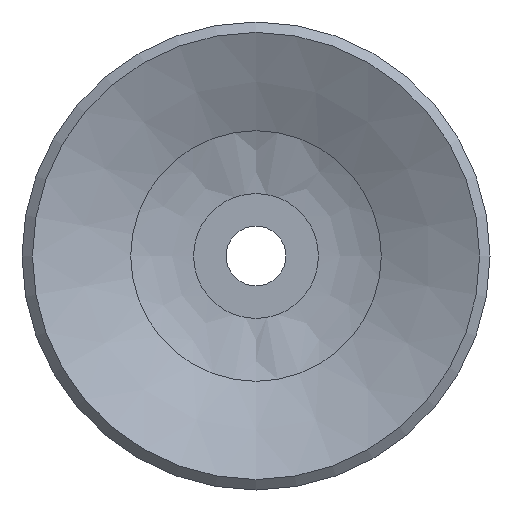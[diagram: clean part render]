
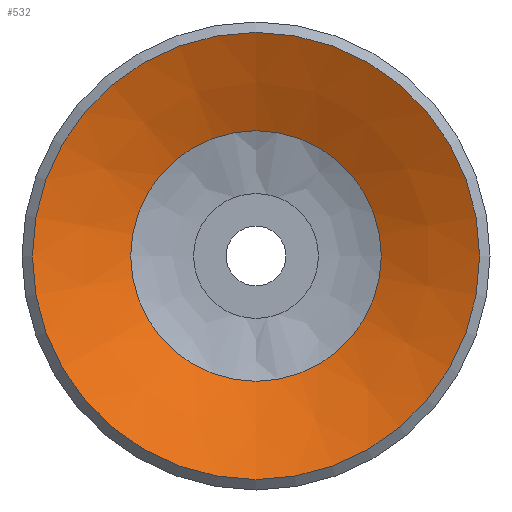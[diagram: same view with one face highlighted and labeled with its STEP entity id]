
A CAD part, front view. The second image highlights one B-rep face of the part: STEP entity #532.
In plain terms, the highlighted conical face has half-angle 65.056 degrees and reference radius 3.2 mm.
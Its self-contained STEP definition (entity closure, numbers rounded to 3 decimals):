
#532=ADVANCED_FACE('',(#756,#757),#758,.F.);
#756=FACE_BOUND('',#1035,.T.);
#757=FACE_OUTER_BOUND('',#1036,.T.);
#758=CONICAL_SURFACE('',#1037,3.2,1.135);
#1035=EDGE_LOOP('',(#1651));
#1036=EDGE_LOOP('',(#1652));
#1037=AXIS2_PLACEMENT_3D('',#1653,#1654,#1655);
#1651=ORIENTED_EDGE('',*,*,#1961,.T.);
#1652=ORIENTED_EDGE('',*,*,#1962,.T.);
#1653=CARTESIAN_POINT('',(0.0,7.896,0.0));
#1654=DIRECTION('',(-0.0,-1.0,0.));
#1655=DIRECTION('',(0.0,0.,-1.0));
#1961=EDGE_CURVE('',#2231,#2231,#2232,.T.);
#1962=EDGE_CURVE('',#2233,#2233,#2234,.T.);
#2231=VERTEX_POINT('',#2843);
#2232=CIRCLE('',#2844,4.203);
#2233=VERTEX_POINT('',#2845);
#2234=CIRCLE('',#2846,7.5);
#2843=CARTESIAN_POINT('',(0.0,7.43,-4.203));
#2844=AXIS2_PLACEMENT_3D('',#3151,#3152,#3153);
#2845=CARTESIAN_POINT('',(0.0,5.896,-7.5));
#2846=AXIS2_PLACEMENT_3D('',#3154,#3155,#3156);
#3151=CARTESIAN_POINT('',(0.0,7.43,0.0));
#3152=DIRECTION('',(0.0,1.0,0.));
#3153=DIRECTION('',(0.0,0.,-1.0));
#3154=CARTESIAN_POINT('',(0.0,5.896,0.0));
#3155=DIRECTION('',(0.0,-1.0,0.));
#3156=DIRECTION('',(0.0,0.,-1.0));
